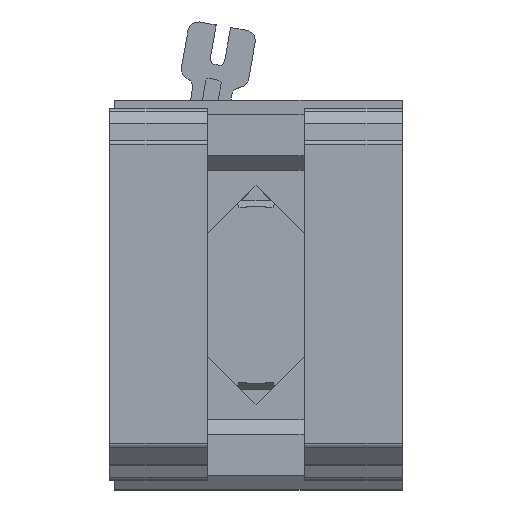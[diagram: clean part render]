
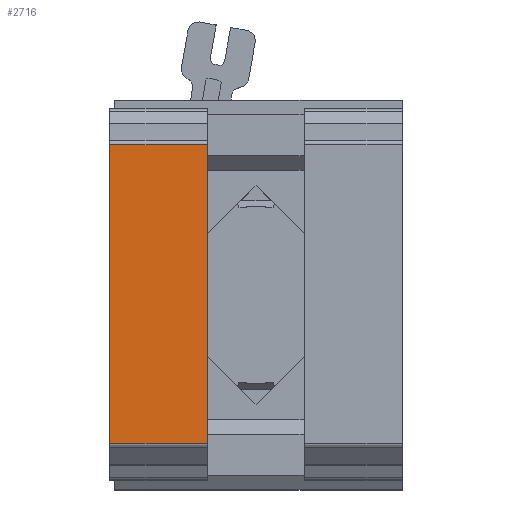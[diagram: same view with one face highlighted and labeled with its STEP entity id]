
A CAD part, top view. The second image highlights one B-rep face of the part: STEP entity #2716.
In plain terms, the highlighted planar face has unit normal (0, 0, 1).
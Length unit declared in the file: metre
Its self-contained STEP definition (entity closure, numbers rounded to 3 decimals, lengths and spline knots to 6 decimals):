
#2655=CARTESIAN_POINT('',(0.085,-0.015325,0.0488));
#2656=VERTEX_POINT('',#2655);
#2665=CARTESIAN_POINT('',(0.095,-0.015325,0.0488));
#2666=VERTEX_POINT('',#2665);
#2669=CARTESIAN_POINT('',(0.095,-0.015325,0.0488));
#2670=DIRECTION('',(-1.,0.,0.));
#2671=VECTOR('',#2670,1.);
#2672=LINE('',#2669,#2671);
#2673=EDGE_CURVE('',#2666,#2656,#2672,.T.);
#2686=CARTESIAN_POINT('',(0.095,-0.015325,0.0488));
#2687=DIRECTION('',(0.,0.,-1.));
#2688=DIRECTION('',(-1.,0.,0.));
#2689=AXIS2_PLACEMENT_3D('',#2686,#2687,#2688);
#2690=PLANE('',#2689);
#2691=CARTESIAN_POINT('',(0.085,-0.015325,0.0488));
#2692=DIRECTION('',(0.,1.,0.));
#2693=VECTOR('',#2692,1.);
#2694=LINE('',#2691,#2693);
#2695=CARTESIAN_POINT('',(0.085,0.015325,0.0488));
#2696=VERTEX_POINT('',#2695);
#2697=EDGE_CURVE('',#2656,#2696,#2694,.T.);
#2698=ORIENTED_EDGE('',*,*,#2697,.F.);
#2699=ORIENTED_EDGE('',*,*,#2673,.F.);
#2700=CARTESIAN_POINT('',(0.095,-0.015325,0.0488));
#2701=DIRECTION('',(0.,1.,0.));
#2702=VECTOR('',#2701,1.);
#2703=LINE('',#2700,#2702);
#2704=CARTESIAN_POINT('',(0.095,0.015325,0.0488));
#2705=VERTEX_POINT('',#2704);
#2706=EDGE_CURVE('',#2666,#2705,#2703,.T.);
#2707=ORIENTED_EDGE('',*,*,#2706,.T.);
#2708=CARTESIAN_POINT('',(0.095,0.015325,0.0488));
#2709=DIRECTION('',(-1.,0.,0.));
#2710=VECTOR('',#2709,1.);
#2711=LINE('',#2708,#2710);
#2712=EDGE_CURVE('',#2705,#2696,#2711,.T.);
#2713=ORIENTED_EDGE('',*,*,#2712,.T.);
#2714=EDGE_LOOP('',(#2698,#2699,#2707,#2713));
#2715=FACE_BOUND('',#2714,.T.);
#2716=ADVANCED_FACE('',(#2715),#2690,.F.);
